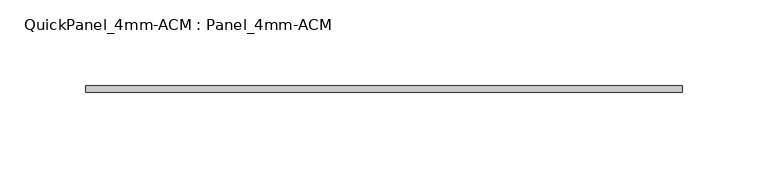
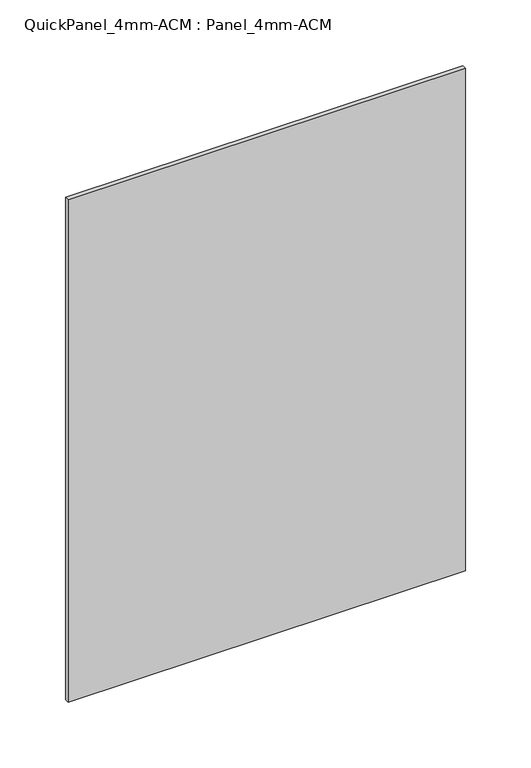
"""IFC4 building model written with IfcOpenShell, lengths in millimetres: plate geometry, QuickPanel_4mm-ACM : Panel_4mm-ACM."""

import ifcopenshell
import ifcopenshell.guid

model = None  # the IFC model being written
_history = None  # IfcOwnerHistory: only IFC2X3 demands one
_inside = {}  # id of a spatial element -> (the spatial element, [elements in it])
_under = {}  # id of a project, library or spatial element -> (it, [spatial elements below it])
_declared = {}  # id of a project -> (the project, [libraries it declares])
_typed = {}  # id of a type object -> (the type object, [elements of that type])
_made_of = {}  # id of a material, layer set ... -> (it, [elements and type objects made of it])


def new_model(schema):
    """Start an empty IFC model of exactly this schema.

    Asked for "IFC4X3", IfcOpenShell would pick the latest addendum, in which some entities
    have other attributes; the version numbers below select the first issue.
    IFC2X3 requires an IfcOwnerHistory on every rooted entity: one is made here for all.
    """
    global model, _history
    if schema == "IFC4X3":
        model = ifcopenshell.file(schema_version=(4, 3, 0, 0))
    else:
        model = ifcopenshell.file(schema=schema)
    _inside.clear()
    _under.clear()
    _declared.clear()
    _typed.clear()
    _made_of.clear()
    _history = None
    if model.schema == "IFC2X3":
        org = make("IfcOrganization", Name="unknown")
        user = make(
            "IfcPersonAndOrganization",
            ThePerson=make("IfcPerson", FamilyName="unknown"),
            TheOrganization=org,
        )
        app = make(
            "IfcApplication",
            ApplicationDeveloper=org,
            Version="unknown",
            ApplicationFullName="unknown",
            ApplicationIdentifier="unknown",
        )
        _history = make(
            "IfcOwnerHistory",
            OwningUser=user,
            OwningApplication=app,
            ChangeAction="ADDED",
            CreationDate=0,
        )
    return model


def make(cls, **values):
    """One entity of the class cls with the attributes given. An attribute that is None is left unset."""
    return model.create_entity(
        cls, **{name: value for name, value in values.items() if value is not None}
    )


def rooted(cls, **values):
    """An entity with a GlobalId (a new one), such as an element, a storey or a relation."""
    return make(cls, GlobalId=ifcopenshell.guid.new(), OwnerHistory=_history, **values)


def si_unit(unit_type, name, prefix=None):
    """IfcSIUnit, for example si_unit("LENGTHUNIT", "METRE", prefix="MILLI")."""
    return make("IfcSIUnit", UnitType=unit_type, Prefix=prefix, Name=name)


def assignment(units):
    """IfcUnitAssignment: the units of a project."""
    return None if units is None else make("IfcUnitAssignment", Units=units)


def point(xyz):
    """IfcCartesianPoint."""
    return None if xyz is None else make("IfcCartesianPoint", Coordinates=xyz)


def direction(xyz):
    """IfcDirection."""
    return None if xyz is None else make("IfcDirection", DirectionRatios=xyz)


def frame(location, z_axis=None, x_axis=None):
    """IfcAxis2Placement3D, a coordinate frame: its origin and axes. An axis left out is left unset."""
    return make(
        "IfcAxis2Placement3D",
        Location=point(location),
        Axis=direction(z_axis),
        RefDirection=direction(x_axis),
    )


def origin():
    """The frame at (0, 0, 0) with its axes left unset."""
    return frame((0.0, 0.0, 0.0))


def origin_with_axes():
    """The frame at (0, 0, 0) with the z axis (0, 0, 1) and the x axis (1, 0, 0) written out."""
    return frame((0.0, 0.0, 0.0), z_axis=(0.0, 0.0, 1.0), x_axis=(1.0, 0.0, 0.0))


def place(relative_to, where):
    """IfcLocalPlacement: puts the frame where relative to a parent placement (None: the world)."""
    return make(
        "IfcLocalPlacement", PlacementRelTo=relative_to, RelativePlacement=where
    )


def context(
    kind, dimensions, precision=None, world=None, true_north=None, identifier=None
):
    """IfcGeometricRepresentationContext, for example the 3D "Model" context."""
    return make(
        "IfcGeometricRepresentationContext",
        ContextIdentifier=identifier,
        ContextType=kind,
        CoordinateSpaceDimension=dimensions,
        Precision=precision,
        WorldCoordinateSystem=world,
        TrueNorth=true_north,
    )


def project(units=None, contexts=None):
    """IfcProject with its units and contexts."""
    return rooted(
        "IfcProject",
        Name="project",
        RepresentationContexts=contexts,
        UnitsInContext=assignment(units),
    )


def spatial(cls, under=None, at=None, **own):
    """A site, building, storey or space (cls), placed at a placement, below another one or the project."""
    s = rooted(cls, ObjectPlacement=at, **own)
    if under is not None:
        _under.setdefault(under.id(), (under, []))[1].append(s)
    return s


def polyline(points):
    """IfcPolyline through the points."""
    return make("IfcPolyline", Points=[point(p) for p in points])


def outline(outer, holes=None, kind="AREA"):
    """IfcArbitraryClosedProfileDef: a profile drawn as a closed curve; with holes, ...WithVoids."""
    if holes is None:
        return make("IfcArbitraryClosedProfileDef", ProfileType=kind, OuterCurve=outer)
    return make(
        "IfcArbitraryProfileDefWithVoids",
        ProfileType=kind,
        OuterCurve=outer,
        InnerCurves=holes,
    )


def extrude(swept, where, along, depth):
    """IfcExtrudedAreaSolid: the profile swept, set in the frame where, extruded along a direction by depth."""
    return make(
        "IfcExtrudedAreaSolid",
        SweptArea=swept,
        Position=where,
        ExtrudedDirection=direction(along),
        Depth=depth,
    )


def shape(context_of_items, identifier, shape_type, items):
    """IfcShapeRepresentation: the items that make up one representation, for example the "Body"."""
    return make(
        "IfcShapeRepresentation",
        ContextOfItems=context_of_items,
        RepresentationIdentifier=identifier,
        RepresentationType=shape_type,
        Items=items,
    )


def source(mapping_origin, context_of_items, identifier, shape_type, items):
    """IfcRepresentationMap: a shape defined once, which mapped items show again and again."""
    return make(
        "IfcRepresentationMap",
        MappingOrigin=mapping_origin,
        MappedRepresentation=shape(context_of_items, identifier, shape_type, items),
    )


def transform(
    local_origin,
    x_axis=None,
    y_axis=None,
    z_axis=None,
    scale=None,
    scale2=None,
    scale3=None,
    uniform=True,
):
    """IfcCartesianTransformationOperator3D, or its non-uniform kind. x_axis, y_axis, z_axis: its Axis1, 2, 3."""
    if uniform:
        return make(
            "IfcCartesianTransformationOperator3D",
            Axis1=direction(x_axis),
            Axis2=direction(y_axis),
            LocalOrigin=point(local_origin),
            Scale=scale,
            Axis3=direction(z_axis),
        )
    return make(
        "IfcCartesianTransformationOperator3DnonUniform",
        Axis1=direction(x_axis),
        Axis2=direction(y_axis),
        LocalOrigin=point(local_origin),
        Scale=scale,
        Axis3=direction(z_axis),
        Scale2=scale2,
        Scale3=scale3,
    )


def mapped(mapping_source, mapping_target):
    """IfcMappedItem: shows the shape of a source again, moved by a transform."""
    return make(
        "IfcMappedItem", MappingSource=mapping_source, MappingTarget=mapping_target
    )


def made_of(thing, what):
    """Note that an element or type object is made of a material, layer set ...; save() writes the relation."""
    if what is not None:
        _made_of.setdefault(what.id(), (what, []))[1].append(thing)
    return thing


def element(
    cls,
    number,
    at=None,
    inside=None,
    cuts=None,
    type_object=None,
    material=None,
    context=None,
    identifier="Body",
    shape_type=None,
    held_by="IfcProductDefinitionShape",
    body=None,
    shapes=None,
    **own,
):
    """One element of the class cls, such as IfcWall. Its Tag is "e" and its number.

    at: its placement. inside: the storey or other place that contains it. cuts: it is an
    opening in that element (IfcRelVoidsElement). A single representation is given by context,
    identifier, shape_type and body (its items); several are given by shapes. held_by: the class
    of the entity that holds the representations. save() writes the other relations.
    """
    e = rooted(cls, Tag="e%d" % number, ObjectPlacement=at, **own)
    if body is not None:
        shapes = [shape(context, identifier, shape_type, body)]
    if shapes is not None:
        e.Representation = make(held_by, Representations=shapes)
    if inside is not None:
        _inside.setdefault(inside.id(), (inside, []))[1].append(e)
    if cuts is not None:
        rooted(
            "IfcRelVoidsElement", RelatingBuildingElement=cuts, RelatedOpeningElement=e
        )
    if type_object is not None:
        _typed.setdefault(type_object.id(), (type_object, []))[1].append(e)
    return made_of(e, material)


def aggregate(whole, parts):
    """IfcRelAggregates: a whole, such as a stair, and the parts it consists of."""
    return rooted("IfcRelAggregates", RelatingObject=whole, RelatedObjects=parts)


def save(model, path):
    """Write the relations noted so far, then the file.

    IfcRelAggregates (storeys below a building ...), IfcRelContainedInSpatialStructure (elements
    in a storey), IfcRelDefinesByType, IfcRelAssociatesMaterial and IfcRelDeclares: one each for
    every whole, place, type object, material and project.
    """
    for whole, parts in _under.values():
        aggregate(whole, parts)
    for where, things in _inside.values():
        rooted(
            "IfcRelContainedInSpatialStructure",
            RelatedElements=things,
            RelatingStructure=where,
        )
    for kind, things in _typed.values():
        rooted("IfcRelDefinesByType", RelatedObjects=things, RelatingType=kind)
    for what, things in _made_of.values():
        rooted("IfcRelAssociatesMaterial", RelatedObjects=things, RelatingMaterial=what)
    for by, libraries in _declared.values():
        rooted("IfcRelDeclares", RelatingContext=by, RelatedDefinitions=libraries)
    model.write(path)


def quickpanel_4mm_acm_panel_4mm_acm_d2320506(model_context):
    return source(origin(), model_context, "Body", "SweptSolid", [
        extrude(outline(polyline([(-174.1963747, -6.096), (174.1963747, -6.096), (174.1963747, -9.906), (-174.1963747, -9.906), (-174.1963747, -6.096)])), origin_with_axes(), (0.0, 0.0, 1.0), 465.6618949),
    ])


if __name__ == "__main__":
    model = new_model("IFC4")
    model_context = context("Model", 3, world=origin())
    ifc_project = project(units=[si_unit("LENGTHUNIT", "METRE", prefix="MILLI")], contexts=[model_context])
    site = spatial("IfcSite", under=ifc_project)
    building = spatial("IfcBuilding", under=site)
    placement = place(None, origin())
    quickpanel_4mm_acm_panel_4mm_acm_shape = quickpanel_4mm_acm_panel_4mm_acm_d2320506(model_context)
    element("IfcPlate", 1, ObjectType="QuickPanel_4mm-ACM : Panel_4mm-ACM", at=placement, inside=building, context=model_context, shape_type="MappedRepresentation", body=[
        mapped(quickpanel_4mm_acm_panel_4mm_acm_shape, transform((0.0, 0.0, 0.0), x_axis=(1.0, 0.0, 0.0), y_axis=(0.0, 1.0, 0.0), z_axis=(0.0, 0.0, 1.0))),
    ])
    save(model, "model.ifc")
